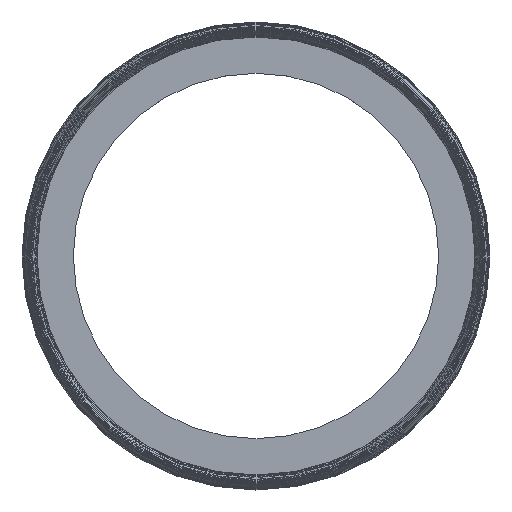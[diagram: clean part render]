
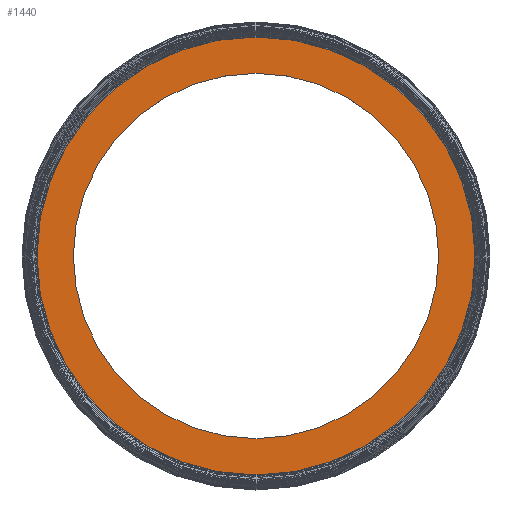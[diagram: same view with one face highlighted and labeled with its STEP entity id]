
A CAD part, top view. The second image highlights one B-rep face of the part: STEP entity #1440.
In plain terms, the highlighted planar face has unit normal (0, 0, 1).
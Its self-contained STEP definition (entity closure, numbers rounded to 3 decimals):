
#43 = CYLINDRICAL_SURFACE('',#44,29.2);
#44 = AXIS2_PLACEMENT_3D('',#45,#46,#47);
#45 = CARTESIAN_POINT('',(0.,0.,40.));
#46 = DIRECTION('',(-0.,-0.,-1.));
#47 = DIRECTION('',(1.,0.,0.));
#1373 = CONICAL_SURFACE('',#1374,35.1,1.369);
#1374 = AXIS2_PLACEMENT_3D('',#1375,#1376,#1377);
#1375 = CARTESIAN_POINT('',(0.,0.,40.02));
#1376 = DIRECTION('',(0.,0.,1.));
#1377 = DIRECTION('',(1.,0.,0.));
#1391 = VERTEX_POINT('',#1392);
#1392 = CARTESIAN_POINT('',(35.,0.,40.));
#1413 = EDGE_CURVE('',#1391,#1391,#1414,.T.);
#1414 = SURFACE_CURVE('',#1415,(#1420,#1427),.PCURVE_S1.);
#1415 = CIRCLE('',#1416,35.);
#1416 = AXIS2_PLACEMENT_3D('',#1417,#1418,#1419);
#1417 = CARTESIAN_POINT('',(0.,0.,40.));
#1418 = DIRECTION('',(0.,0.,1.));
#1419 = DIRECTION('',(1.,0.,-0.));
#1420 = PCURVE('',#1373,#1421);
#1421 = DEFINITIONAL_REPRESENTATION('',(#1422),#1426);
#1422 = LINE('',#1423,#1424);
#1423 = CARTESIAN_POINT('',(0.,-0.02));
#1424 = VECTOR('',#1425,1.);
#1425 = DIRECTION('',(1.,-0.));
#1426 = ( GEOMETRIC_REPRESENTATION_CONTEXT(2) 
PARAMETRIC_REPRESENTATION_CONTEXT() REPRESENTATION_CONTEXT('2D SPACE',''
  ) );
#1427 = PCURVE('',#1428,#1433);
#1428 = PLANE('',#1429);
#1429 = AXIS2_PLACEMENT_3D('',#1430,#1431,#1432);
#1430 = CARTESIAN_POINT('',(0.,0.,40.));
#1431 = DIRECTION('',(0.,0.,1.));
#1432 = DIRECTION('',(1.,0.,-0.));
#1433 = DEFINITIONAL_REPRESENTATION('',(#1434),#1438);
#1434 = CIRCLE('',#1435,35.);
#1435 = AXIS2_PLACEMENT_2D('',#1436,#1437);
#1436 = CARTESIAN_POINT('',(0.,0.));
#1437 = DIRECTION('',(1.,0.));
#1438 = ( GEOMETRIC_REPRESENTATION_CONTEXT(2) 
PARAMETRIC_REPRESENTATION_CONTEXT() REPRESENTATION_CONTEXT('2D SPACE',''
  ) );
#1440 = ADVANCED_FACE('',(#1441,#1444),#1428,.T.);
#1441 = FACE_BOUND('',#1442,.T.);
#1442 = EDGE_LOOP('',(#1443));
#1443 = ORIENTED_EDGE('',*,*,#1413,.T.);
#1444 = FACE_BOUND('',#1445,.T.);
#1445 = EDGE_LOOP('',(#1446));
#1446 = ORIENTED_EDGE('',*,*,#1447,.F.);
#1447 = EDGE_CURVE('',#1448,#1448,#1450,.T.);
#1448 = VERTEX_POINT('',#1449);
#1449 = CARTESIAN_POINT('',(29.2,0.,40.));
#1450 = SURFACE_CURVE('',#1451,(#1456,#1463),.PCURVE_S1.);
#1451 = CIRCLE('',#1452,29.2);
#1452 = AXIS2_PLACEMENT_3D('',#1453,#1454,#1455);
#1453 = CARTESIAN_POINT('',(0.,0.,40.));
#1454 = DIRECTION('',(0.,0.,1.));
#1455 = DIRECTION('',(1.,0.,-0.));
#1456 = PCURVE('',#1428,#1457);
#1457 = DEFINITIONAL_REPRESENTATION('',(#1458),#1462);
#1458 = CIRCLE('',#1459,29.2);
#1459 = AXIS2_PLACEMENT_2D('',#1460,#1461);
#1460 = CARTESIAN_POINT('',(0.,0.));
#1461 = DIRECTION('',(1.,0.));
#1462 = ( GEOMETRIC_REPRESENTATION_CONTEXT(2) 
PARAMETRIC_REPRESENTATION_CONTEXT() REPRESENTATION_CONTEXT('2D SPACE',''
  ) );
#1463 = PCURVE('',#43,#1464);
#1464 = DEFINITIONAL_REPRESENTATION('',(#1465),#1469);
#1465 = LINE('',#1466,#1467);
#1466 = CARTESIAN_POINT('',(-0.,0.));
#1467 = VECTOR('',#1468,1.);
#1468 = DIRECTION('',(-1.,0.));
#1469 = ( GEOMETRIC_REPRESENTATION_CONTEXT(2) 
PARAMETRIC_REPRESENTATION_CONTEXT() REPRESENTATION_CONTEXT('2D SPACE',''
  ) );
